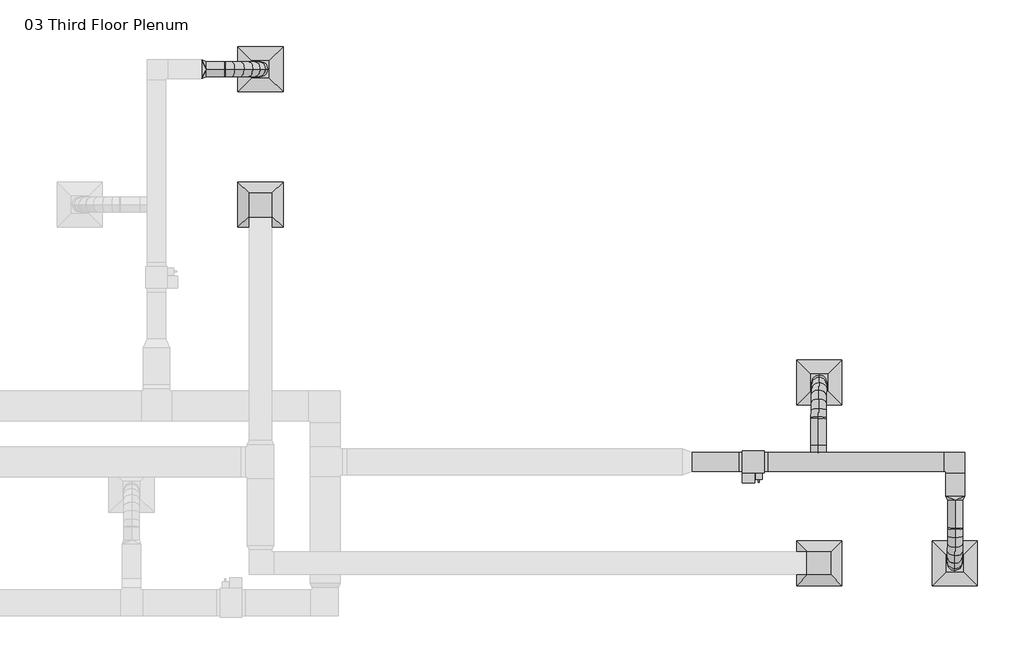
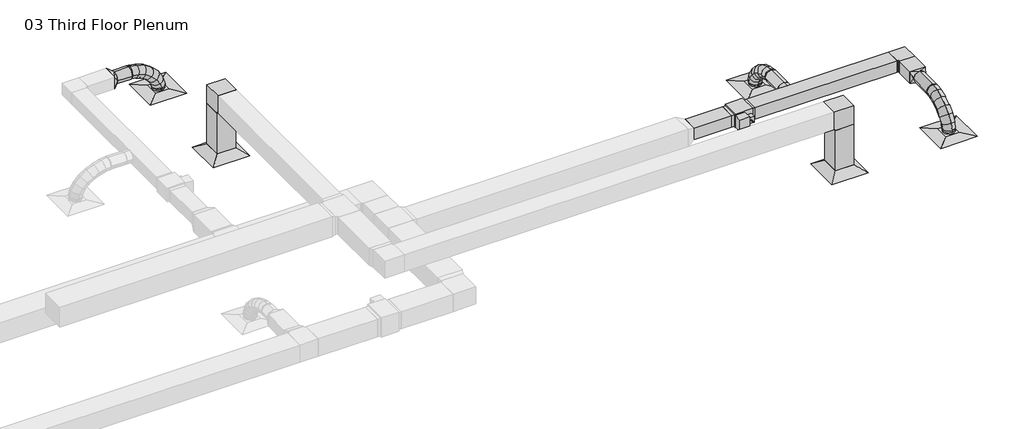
# One storey, part 9 of 9: 11 duct segments, 6 duct fittings, 5 air terminals, 1 proxy.
"""IFC4 building model written with IfcOpenShell, lengths in millimetres."""

from ifc_helpers import new_model, si_unit, point, frame, frame_2d, origin, place, context, project, spatial, polyline, circle_curve, ellipse_curve, trimmed, segment, composite_curve, outline, extrude, transform, mapped, element, save
from ifc_brep_helpers import plane_surface, cylinder_surface, advanced_brep
from components import return_diffuser_d30_returndiffuser_24x24_12x12_connection_ff543d60, supply_diffuser_rectangular_face_round_neck_d30_6390248a, bcn6785_vav_d30_vav1_8c327968, rectangular_elbow_mitered_standard_f09b78ec, rectangular_elbow_mitered_standard_4ff1c4e8, rectangular_to_round_transition_angle_45_degree_e9430680, round_takeoff_standard_d3b0d0f9

model = new_model("IFC4")

# Units and contexts
model_context = context("Model", 3, world=origin())
ifc_project = project(units=[si_unit("LENGTHUNIT", "METRE", prefix="MILLI")], contexts=[model_context])

# Site, building, storey
site = spatial("IfcSite", under=ifc_project)
building = spatial("IfcBuilding", under=site)
storey = spatial("IfcBuildingStorey", under=building, Name="03 Third Floor Plenum", Elevation=7620.0)

# Air terminals
placement = place(None, origin())
return_diffuser_d30_returndiffuser_24x24_12x12_connection_shape = return_diffuser_d30_returndiffuser_24x24_12x12_connection_ff543d60(model_context)
element("IfcAirTerminal", 1, ObjectType="Return Diffuser : D30_ReturnDiffuser_24x24 12x12 Connection", at=placement, inside=storey, context=model_context, shape_type="MappedRepresentation", body=[
    mapped(return_diffuser_d30_returndiffuser_24x24_12x12_connection_shape, transform((10252.2832383, 10036.7671675, 7620.0), x_axis=(1.0, 0.0, 0.0), y_axis=(0.0, 1.0, 0.0), z_axis=(0.0, 0.0, 1.0))),
])
element("IfcAirTerminal", 2, ObjectType="Return Diffuser : D30_ReturnDiffuser_24x24 12x12 Connection", at=placement, inside=storey, context=model_context, shape_type="MappedRepresentation", body=[
    mapped(return_diffuser_d30_returndiffuser_24x24_12x12_connection_shape, transform((17791.3207383, 5194.8921675, 7620.0), x_axis=(0.0, 1.0, 0.0), y_axis=(-1.0, 0.0, 0.0), z_axis=(0.0, 0.0, 1.0))),
])
supply_diffuser_rectangular_face_round_neck_d30_shape = supply_diffuser_rectangular_face_round_neck_d30_6390248a(model_context)
element("IfcAirTerminal", 3, ObjectType="Supply Diffuser - Rectangular Face Round Neck : D30_SupplyDiffuser_24x24 8 Neck", at=placement, inside=storey, context=model_context, shape_type="MappedRepresentation", body=[
    mapped(supply_diffuser_rectangular_face_round_neck_d30_shape, transform((10252.2832383, 11865.5671675, 7620.0), x_axis=(1.0, 0.0, 0.0), y_axis=(0.0, 1.0, 0.0), z_axis=(0.0, 0.0, 1.0))),
])
element("IfcAirTerminal", 4, ObjectType="Supply Diffuser - Rectangular Face Round Neck : D30_SupplyDiffuser_24x24 8 Neck", at=placement, inside=storey, context=model_context, shape_type="MappedRepresentation", body=[
    mapped(supply_diffuser_rectangular_face_round_neck_d30_shape, transform((19620.1207383, 5194.8921675, 7620.0), x_axis=(1.0, 0.0, 0.0), y_axis=(0.0, 1.0, 0.0), z_axis=(0.0, 0.0, 1.0))),
])
element("IfcAirTerminal", 5, ObjectType="Supply Diffuser - Rectangular Face Round Neck : D30_SupplyDiffuser_24x24 8 Neck", at=placement, inside=storey, context=model_context, shape_type="MappedRepresentation", body=[
    mapped(supply_diffuser_rectangular_face_round_neck_d30_shape, transform((17791.3207383, 7633.2921675, 7620.0), x_axis=(1.0, 0.0, 0.0), y_axis=(0.0, 1.0, 0.0), z_axis=(0.0, 0.0, 1.0))),
])

# Proxy
bcn6785_vav_d30_vav1_shape = bcn6785_vav_d30_vav1_8c327968(model_context)
element("IfcBuildingElementProxy", 6, Name="BCN6785_VAV : D30_VAV1", ObjectType="BCN6785_VAV : D30_VAV1", at=placement, inside=storey, context=model_context, shape_type="MappedRepresentation", body=[
    mapped(bcn6785_vav_d30_vav1_shape, transform((16754.2057059, 6562.2580171, 7956.55), x_axis=(1.0, 0.0, 0.0), y_axis=(0.0, 1.0, 0.0), z_axis=(0.0, 0.0, 1.0))),
])

# Duct fittings
rectangular_elbow_mitered_standard_shape = rectangular_elbow_mitered_standard_f09b78ec(model_context)
element("IfcDuctFitting", 7, ObjectType="Rectangular Elbow - Mitered : Standard", at=placement, inside=storey, context=model_context, shape_type="MappedRepresentation", body=[
    mapped(rectangular_elbow_mitered_standard_shape, transform((19624.4057059, 6562.2580171, 8077.2), x_axis=(0.0, 1.0, 0.0), y_axis=(-1.0, 0.0, 0.0), z_axis=(0.0, 0.0, 1.0))),
])
rectangular_elbow_mitered_standard_2_shape = rectangular_elbow_mitered_standard_4ff1c4e8(model_context)
element("IfcDuctFitting", 8, ObjectType="Rectangular Elbow - Mitered : Standard", at=placement, inside=storey, context=model_context, shape_type="MappedRepresentation", body=[
    mapped(rectangular_elbow_mitered_standard_2_shape, transform((10252.2832383, 10036.7671675, 8610.6), x_axis=(0.0, 0.0, 1.0), y_axis=(0.0, -1.0, 0.0), z_axis=(1.0, 0.0, 0.0))),
])
element("IfcDuctFitting", 9, ObjectType="Rectangular Elbow - Mitered : Standard", at=placement, inside=storey, context=model_context, shape_type="MappedRepresentation", body=[
    mapped(rectangular_elbow_mitered_standard_2_shape, transform((17791.3207383, 5194.8921675, 8610.6), x_axis=(0.0, 0.0, 1.0), y_axis=(-1.0, 0.0, 0.0), z_axis=(0.0, -1.0, 0.0))),
])
rectangular_to_round_transition_angle_45_degree_shape = rectangular_to_round_transition_angle_45_degree_e9430680(model_context)
element("IfcDuctFitting", 10, ObjectType="Rectangular to Round Transition - Angle : 45 Degree", at=placement, inside=storey, context=model_context, shape_type="MappedRepresentation", body=[
    mapped(rectangular_to_round_transition_angle_45_degree_shape, transform((9459.889134, 11865.5671675, 8077.2), x_axis=(1.0, 0.0, 0.0), y_axis=(0.0, 1.0, 0.0), z_axis=(0.0, 0.0, 1.0))),
])
element("IfcDuctFitting", 11, ObjectType="Rectangular to Round Transition - Angle : 45 Degree", at=placement, inside=storey, context=model_context, shape_type="MappedRepresentation", body=[
    mapped(rectangular_to_round_transition_angle_45_degree_shape, transform((19624.4057059, 6105.0580171, 8077.2), x_axis=(0.0, -1.0, 0.0), y_axis=(1.0, 0.0, 0.0), z_axis=(0.0, 0.0, 1.0))),
])
round_takeoff_standard_shape = round_takeoff_standard_d3b0d0f9(model_context)
element("IfcDuctFitting", 12, ObjectType="Round Takeoff : Standard", at=placement, inside=storey, context=model_context, shape_type="MappedRepresentation", body=[
    mapped(round_takeoff_standard_shape, transform((17780.479689, 6689.2580171, 8077.2), x_axis=(0.0, 1.0, 0.0), y_axis=(1.0, 0.0, 0.0), z_axis=(0.0, 0.0, -1.0))),
])

# Duct segments
element("IfcDuctSegment", 13, ObjectType="Flex - Round", at=placement, inside=storey, context=model_context, shape_type="AdvancedBrep", body=[
    advanced_brep(
    [(9764.689134, 11967.1671675, 8077.2), (9764.689134, 11865.5671675, 7975.6), (9764.689134, 11763.9671675, 8077.2), (9764.689134, 11865.5671675, 8178.8), (9778.6973765, 11967.1671675, 8077.2), (9770.6377398, 11865.5671675, 7975.6), (9778.6973765, 11763.9671675, 8077.2), (9786.7570132, 11865.5671675, 8178.8), (10252.2832383, 11967.1671675, 7673.975), (10353.8832383, 11865.5671675, 7673.975), (10252.2832383, 11763.9671675, 7673.975), (10150.6832383, 11865.5671675, 7673.975), (9874.039046, 11967.1671675, 8061.9778475), (9847.5716556, 11865.5671675, 7963.3168105), (9874.039046, 11763.9671675, 8061.9778475), (9900.5064365, 11865.5671675, 8160.6388846), (9984.839163, 11967.1671675, 8019.5285565), (9939.1057817, 11865.5671675, 7928.2486277), (9984.839163, 11763.9671675, 8019.5285565), (10030.5725443, 11865.5671675, 8110.8084854), (10087.5765628, 11967.1671675, 7954.6778766), (10024.4632256, 11865.5671675, 7874.3686553), (10087.5765628, 11763.9671675, 7954.6778766), (10150.6899001, 11865.5671675, 8034.987098), (10172.7383234, 11967.1671675, 7872.2515575), (10092.7617587, 11865.5671675, 7808.2639076), (10172.7383234, 11763.9671675, 7872.2515575), (10252.714888, 11865.5671675, 7936.2392074), (10230.8115226, 11967.1671675, 7777.0753487), (10136.2754514, 11865.5671675, 7736.9492848), (10230.8115226, 11763.9671675, 7777.0753487), (10325.3475938, 11865.5671675, 7817.2014127), (10252.2832383, 11967.1671675, 7694.6897958), (10150.6832383, 11865.5671675, 7681.6675594), (10252.2832383, 11763.9671675, 7694.6897958), (10353.8832383, 11865.5671675, 7707.7120321)],
    [
        (0, 1, circle_curve(frame((9764.689134, 11865.5671675, 8077.2), z_axis=(-1.0, 0.0, 0.0), x_axis=(0.0, 1.0, 0.0)), 101.6)),
        (1, 2, circle_curve(frame((9764.689134, 11865.5671675, 8077.2), z_axis=(-1.0, 0.0, 0.0), x_axis=(0.0, 1.0, 0.0)), 101.6)),
        (2, 3, circle_curve(frame((9764.689134, 11865.5671675, 8077.2), z_axis=(-1.0, 0.0, 0.0), x_axis=(0.0, 1.0, 0.0)), 101.6)),
        (3, 0, circle_curve(frame((9764.689134, 11865.5671675, 8077.2), z_axis=(-1.0, 0.0, 0.0), x_axis=(0.0, 1.0, 0.0)), 101.6)),
        (0, 4),
        (4, 5, ellipse_curve(frame((9778.6973765, 11865.5671675, 8077.2), z_axis=(-0.9968683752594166, 0.0, 0.07907871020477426), x_axis=(-0.07907871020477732, 0.0, -0.9968683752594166)), 101.9191726, 101.6)),
        (5, 1),
        (5, 6, ellipse_curve(frame((9778.6973765, 11865.5671675, 8077.2), z_axis=(-0.9968683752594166, 0.0, 0.07907871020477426), x_axis=(-0.07907871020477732, 0.0, -0.9968683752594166)), 101.9191726, 101.6)),
        (6, 2),
        (6, 7, ellipse_curve(frame((9778.6973765, 11865.5671675, 8077.2), z_axis=(-0.9968683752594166, 0.0, 0.07907871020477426), x_axis=(-0.07907871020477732, 0.0, -0.9968683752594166)), 101.9191726, 101.6)),
        (7, 3),
        (7, 4, ellipse_curve(frame((9778.6973765, 11865.5671675, 8077.2), z_axis=(-0.9968683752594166, 0.0, 0.07907871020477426), x_axis=(-0.07907871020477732, 0.0, -0.9968683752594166)), 101.9191726, 101.6)),
        (8, 9, circle_curve(frame((10252.2832383, 11865.5671675, 7673.975), z_axis=(0.0, 0.0, -1.0), x_axis=(0.0, 1.0, 0.0)), 101.6)),
        (9, 10, circle_curve(frame((10252.2832383, 11865.5671675, 7673.975), z_axis=(0.0, 0.0, -1.0), x_axis=(0.0, 1.0, 0.0)), 101.6)),
        (10, 11, circle_curve(frame((10252.2832383, 11865.5671675, 7673.975), z_axis=(0.0, 0.0, -1.0), x_axis=(0.0, 1.0, 0.0)), 101.6)),
        (11, 8, circle_curve(frame((10252.2832383, 11865.5671675, 7673.975), z_axis=(0.0, 0.0, -1.0), x_axis=(0.0, 1.0, 0.0)), 101.6)),
        (4, 12),
        (12, 13, ellipse_curve(frame((9874.039046, 11865.5671675, 8061.9778475), z_axis=(-0.965849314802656, 0.0, 0.2591044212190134), x_axis=(-0.2591044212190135, 0.0, -0.965849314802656)), 102.1495129, 101.6)),
        (13, 5),
        (13, 14, ellipse_curve(frame((9874.039046, 11865.5671675, 8061.9778475), z_axis=(-0.965849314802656, 0.0, 0.2591044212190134), x_axis=(-0.2591044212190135, 0.0, -0.965849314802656)), 102.1495129, 101.6)),
        (14, 6),
        (14, 15, ellipse_curve(frame((9874.039046, 11865.5671675, 8061.9778475), z_axis=(-0.965849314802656, 0.0, 0.2591044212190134), x_axis=(-0.2591044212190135, 0.0, -0.965849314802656)), 102.1495129, 101.6)),
        (15, 7),
        (15, 12, ellipse_curve(frame((9874.039046, 11865.5671675, 8061.9778475), z_axis=(-0.965849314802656, 0.0, 0.2591044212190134), x_axis=(-0.2591044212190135, 0.0, -0.965849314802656)), 102.1495129, 101.6)),
        (12, 16),
        (16, 17, ellipse_curve(frame((9984.839163, 11865.5671675, 8019.5285565), z_axis=(-0.8940608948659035, 0.0, 0.44794543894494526), x_axis=(-0.4479454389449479, 0.0, -0.8940608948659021)), 102.0958744, 101.6)),
        (17, 13),
        (17, 18, ellipse_curve(frame((9984.839163, 11865.5671675, 8019.5285565), z_axis=(-0.8940608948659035, 0.0, 0.44794543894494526), x_axis=(-0.4479454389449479, 0.0, -0.8940608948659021)), 102.0958744, 101.6)),
        (18, 14),
        (18, 19, ellipse_curve(frame((9984.839163, 11865.5671675, 8019.5285565), z_axis=(-0.8940608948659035, 0.0, 0.44794543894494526), x_axis=(-0.4479454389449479, 0.0, -0.8940608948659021)), 102.0958744, 101.6)),
        (19, 15),
        (19, 16, ellipse_curve(frame((9984.839163, 11865.5671675, 8019.5285565), z_axis=(-0.8940608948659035, 0.0, 0.44794543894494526), x_axis=(-0.4479454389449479, 0.0, -0.8940608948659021)), 102.0958744, 101.6)),
        (16, 20),
        (20, 21, ellipse_curve(frame((10087.5765628, 11865.5671675, 7954.6778766), z_axis=(-0.7862553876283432, 0.0, 0.6179016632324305), x_axis=(-0.6179016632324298, 0.0, -0.7862553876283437)), 102.141394, 101.6)),
        (21, 17),
        (21, 22, ellipse_curve(frame((10087.5765628, 11865.5671675, 7954.6778766), z_axis=(-0.7862553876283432, 0.0, 0.6179016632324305), x_axis=(-0.6179016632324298, 0.0, -0.7862553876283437)), 102.141394, 101.6)),
        (22, 18),
        (22, 23, ellipse_curve(frame((10087.5765628, 11865.5671675, 7954.6778766), z_axis=(-0.7862553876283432, 0.0, 0.6179016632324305), x_axis=(-0.6179016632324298, 0.0, -0.7862553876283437)), 102.141394, 101.6)),
        (23, 19),
        (23, 20, ellipse_curve(frame((10087.5765628, 11865.5671675, 7954.6778766), z_axis=(-0.7862553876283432, 0.0, 0.6179016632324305), x_axis=(-0.6179016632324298, 0.0, -0.7862553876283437)), 102.141394, 101.6)),
        (20, 24),
        (24, 25, ellipse_curve(frame((10172.7383234, 11865.5671675, 7872.2515575), z_axis=(-0.6247331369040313, 0.0, 0.7808383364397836), x_axis=(-0.7808383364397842, 0.0, -0.6247331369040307)), 102.4239729, 101.6)),
        (25, 21),
        (25, 26, ellipse_curve(frame((10172.7383234, 11865.5671675, 7872.2515575), z_axis=(-0.6247331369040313, 0.0, 0.7808383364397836), x_axis=(-0.7808383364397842, 0.0, -0.6247331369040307)), 102.4239729, 101.6)),
        (26, 22),
        (26, 27, ellipse_curve(frame((10172.7383234, 11865.5671675, 7872.2515575), z_axis=(-0.6247331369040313, 0.0, 0.7808383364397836), x_axis=(-0.7808383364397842, 0.0, -0.6247331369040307)), 102.4239729, 101.6)),
        (27, 23),
        (27, 24, ellipse_curve(frame((10172.7383234, 11865.5671675, 7872.2515575), z_axis=(-0.6247331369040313, 0.0, 0.7808383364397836), x_axis=(-0.7808383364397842, 0.0, -0.6247331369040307)), 102.4239729, 101.6)),
        (24, 28),
        (28, 29, ellipse_curve(frame((10230.8115226, 11865.5671675, 7777.0753487), z_axis=(-0.39071365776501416, 0.0, 0.9205122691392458), x_axis=(-0.9205122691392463, 0.0, -0.390713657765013)), 102.6994146, 101.6)),
        (29, 25),
        (29, 30, ellipse_curve(frame((10230.8115226, 11865.5671675, 7777.0753487), z_axis=(-0.39071365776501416, 0.0, 0.9205122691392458), x_axis=(-0.9205122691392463, 0.0, -0.390713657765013)), 102.6994146, 101.6)),
        (30, 26),
        (30, 31, ellipse_curve(frame((10230.8115226, 11865.5671675, 7777.0753487), z_axis=(-0.39071365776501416, 0.0, 0.9205122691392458), x_axis=(-0.9205122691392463, 0.0, -0.390713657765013)), 102.6994146, 101.6)),
        (31, 27),
        (31, 28, ellipse_curve(frame((10230.8115226, 11865.5671675, 7777.0753487), z_axis=(-0.39071365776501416, 0.0, 0.9205122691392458), x_axis=(-0.9205122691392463, 0.0, -0.390713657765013)), 102.6994146, 101.6)),
        (28, 32),
        (32, 33, ellipse_curve(frame((10252.2832383, 11865.5671675, 7694.6897958), z_axis=(-0.12713161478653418, 0.0, 0.9918858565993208), x_axis=(-0.9918858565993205, 0.0, -0.12713161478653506)), 102.431141, 101.6)),
        (33, 29),
        (33, 34, ellipse_curve(frame((10252.2832383, 11865.5671675, 7694.6897958), z_axis=(-0.12713161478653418, 0.0, 0.9918858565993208), x_axis=(-0.9918858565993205, 0.0, -0.12713161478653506)), 102.431141, 101.6)),
        (34, 30),
        (34, 35, ellipse_curve(frame((10252.2832383, 11865.5671675, 7694.6897958), z_axis=(-0.12713161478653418, 0.0, 0.9918858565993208), x_axis=(-0.9918858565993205, 0.0, -0.12713161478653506)), 102.431141, 101.6)),
        (35, 31),
        (35, 32, ellipse_curve(frame((10252.2832383, 11865.5671675, 7694.6897958), z_axis=(-0.12713161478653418, 0.0, 0.9918858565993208), x_axis=(-0.9918858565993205, 0.0, -0.12713161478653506)), 102.431141, 101.6)),
        (32, 8),
        (11, 33),
        (10, 34),
        (9, 35),
    ],
    [
        plane_surface(frame((9764.689134, 11865.5671675, 7975.6), z_axis=(-1.0, 0.0, 0.0), x_axis=(0.0, 1.0, 0.0))),
        cylinder_surface(frame((9764.689134, 11865.5671675, 8077.2), z_axis=(-1.0, 0.0, 0.0), x_axis=(0.0, 1.0, 0.0)), 101.6),
        plane_surface(frame((10252.2832383, 11763.9671675, 7673.975), z_axis=(0.0, 0.0, -1.0), x_axis=(-1.0, 0.0, 0.0))),
        cylinder_surface(frame((9778.6973765, 11865.5671675, 8077.2), z_axis=(-0.9874931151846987, 0.0, 0.15766213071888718), x_axis=(0.0, 1.0, 0.0)), 101.6),
        cylinder_surface(frame((9874.039046, 11865.5671675, 8061.9778475), z_axis=(-0.9338139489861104, 0.0, 0.3577590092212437), x_axis=(0.0, 1.0, 0.0)), 101.6),
        cylinder_surface(frame((9984.839163, 11865.5671675, 8019.5285565), z_axis=(-0.8456230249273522, 0.0, 0.5337805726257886), x_axis=(0.0, 1.0, 0.0)), 101.6),
        cylinder_surface(frame((10087.5765628, 11865.5671675, 7954.6778766), z_axis=(-0.7185527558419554, 0.0, 0.6954724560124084), x_axis=(0.0, 1.0, 0.0)), 101.6),
        cylinder_surface(frame((10172.7383234, 11865.5671675, 7872.2515575), z_axis=(-0.5208619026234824, 0.0, 0.853640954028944), x_axis=(0.0, 1.0, 0.0)), 101.6),
        cylinder_surface(frame((10230.8115226, 11865.5671675, 7777.0753487), z_axis=(-0.2522001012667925, 0.0, 0.9676751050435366), x_axis=(0.0, 1.0, 0.0)), 101.6),
        cylinder_surface(frame((10252.2832383, 11865.5671675, 7694.6897958), z_axis=(0.0, 0.0, 1.0), x_axis=(0.0, 1.0, 0.0)), 101.6),
    ],
    [
        (0, [[1, 2, 3, 4]]),
        (1, [[-1, 5, 6, 7]]),
        (1, [[-2, -7, 8, 9]]),
        (1, [[-3, -9, 10, 11]]),
        (1, [[-4, -11, 12, -5]]),
        (2, [[13, 14, 15, 16]]),
        (3, [[-6, 17, 18, 19]]),
        (3, [[-8, -19, 20, 21]]),
        (3, [[-10, -21, 22, 23]]),
        (3, [[-12, -23, 24, -17]]),
        (4, [[-18, 25, 26, 27]]),
        (4, [[-20, -27, 28, 29]]),
        (4, [[-22, -29, 30, 31]]),
        (4, [[-24, -31, 32, -25]]),
        (5, [[-26, 33, 34, 35]]),
        (5, [[-28, -35, 36, 37]]),
        (5, [[-30, -37, 38, 39]]),
        (5, [[-32, -39, 40, -33]]),
        (6, [[-34, 41, 42, 43]]),
        (6, [[-36, -43, 44, 45]]),
        (6, [[-38, -45, 46, 47]]),
        (6, [[-40, -47, 48, -41]]),
        (7, [[-42, 49, 50, 51]]),
        (7, [[-44, -51, 52, 53]]),
        (7, [[-46, -53, 54, 55]]),
        (7, [[-48, -55, 56, -49]]),
        (8, [[-50, 57, 58, 59]]),
        (8, [[-52, -59, 60, 61]]),
        (8, [[-54, -61, 62, 63]]),
        (8, [[-56, -63, 64, -57]]),
        (9, [[-58, 65, -16, 66]]),
        (9, [[-60, -66, -15, 67]]),
        (9, [[-62, -67, -14, 68]]),
        (9, [[-64, -68, -13, -65]]),
    ],
),
])
element("IfcDuctSegment", 14, ObjectType="Flex - Round", at=placement, inside=storey, context=model_context, shape_type="AdvancedBrep", body=[
    advanced_brep(
    [(19726.0057059, 5673.2580171, 8077.2), (19624.4057059, 5673.2580171, 7975.6), (19522.8057059, 5673.2580171, 8077.2), (19624.4057059, 5673.2580171, 8178.8), (19726.0057059, 5658.7376389, 8077.2), (19624.4057059, 5667.2125026, 7975.6), (19522.8057059, 5659.0802398, 8077.2), (19624.4057059, 5650.6053761, 8178.8), (19721.7168325, 5194.0013009, 7673.975), (19619.2298718, 5093.2960733, 7673.975), (19518.5246441, 5195.783034, 7673.975), (19621.0116049, 5296.4882617, 7673.975), (19725.6871135, 5564.8887935, 8061.7566488), (19624.1522513, 5592.5515237, 7963.3141193), (19522.4894884, 5565.930963, 8061.8717667), (19624.0243505, 5538.2682328, 8160.3142962), (19724.8915857, 5455.7502355, 8018.8386293), (19623.5010956, 5503.2193787, 7928.1848413), (19521.6979911, 5457.3453504, 8019.1711894), (19623.0884813, 5409.8762073, 8109.8249774), (19723.8586119, 5354.9334349, 7953.5389615), (19622.6476918, 5419.9283724, 7874.2367393), (19520.6678324, 5356.8033056, 7954.0494826), (19621.8787524, 5291.8083682, 8033.3517047), (19722.826688, 5271.6044091, 7870.920374), (19621.8214191, 5353.2059068, 7808.0831296), (19519.6366237, 5273.5320292, 7871.4881522), (19620.6418926, 5191.9305315, 7934.3253967), (19722.033694, 5214.9172019, 7776.035299), (19621.2256433, 5310.6168546, 7736.7960506), (19518.8425927, 5216.7706952, 7776.479001), (19619.6506434, 5121.0710425, 7815.7182495), (19721.7168325, 5194.0013009, 7694.2843155), (19621.0116049, 5296.4882617, 7681.5736449), (19518.5246441, 5195.783034, 7694.4475387), (19619.2298718, 5093.2960733, 7707.1582092)],
    [
        (0, 1, circle_curve(frame((19624.4057059, 5673.2580171, 8077.2), z_axis=(0.0, 1.0, 0.0), x_axis=(1.0, 0.0, 0.0)), 101.6)),
        (1, 2, circle_curve(frame((19624.4057059, 5673.2580171, 8077.2), z_axis=(0.0, 1.0, 0.0), x_axis=(1.0, 0.0, 0.0)), 101.6)),
        (2, 3, circle_curve(frame((19624.4057059, 5673.2580171, 8077.2), z_axis=(0.0, 1.0, 0.0), x_axis=(1.0, 0.0, 0.0)), 101.6)),
        (3, 0, circle_curve(frame((19624.4057059, 5673.2580171, 8077.2), z_axis=(0.0, 1.0, 0.0), x_axis=(1.0, 0.0, 0.0)), 101.6)),
        (0, 4),
        (4, 5, ellipse_curve(frame((19624.4057059, 5658.9089394, 8077.2), z_axis=(0.0016804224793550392, 0.9966754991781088, 0.08145627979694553), x_axis=(-0.020556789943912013, 0.08147361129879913, -0.9964634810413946)), 101.9388959, 101.6)),
        (5, 1),
        (5, 6, ellipse_curve(frame((19624.4057059, 5658.9089394, 8077.2), z_axis=(0.0016804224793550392, 0.9966754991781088, 0.08145627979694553), x_axis=(-0.020556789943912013, 0.08147361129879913, -0.9964634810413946)), 101.9388959, 101.6)),
        (6, 2),
        (6, 7, ellipse_curve(frame((19624.4057059, 5658.9089394, 8077.2), z_axis=(0.0016804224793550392, 0.9966754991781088, 0.08145627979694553), x_axis=(-0.020556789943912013, 0.08147361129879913, -0.9964634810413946)), 101.9388959, 101.6)),
        (7, 3),
        (7, 4, ellipse_curve(frame((19624.4057059, 5658.9089394, 8077.2), z_axis=(0.0016804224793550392, 0.9966754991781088, 0.08145627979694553), x_axis=(-0.020556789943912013, 0.08147361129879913, -0.9964634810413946)), 101.9388959, 101.6)),
        (8, 9, circle_curve(frame((19620.1207383, 5194.8921675, 7673.975), z_axis=(0.0, 0.0, -1.0), x_axis=(0.9999615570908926, -0.008768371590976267, 0.0)), 101.6)),
        (9, 10, circle_curve(frame((19620.1207383, 5194.8921675, 7673.975), z_axis=(0.0, 0.0, -1.0), x_axis=(0.9999615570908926, -0.008768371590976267, 0.0)), 101.6)),
        (10, 11, circle_curve(frame((19620.1207383, 5194.8921675, 7673.975), z_axis=(0.0, 0.0, -1.0), x_axis=(0.9999615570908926, -0.008768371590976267, 0.0)), 101.6)),
        (11, 8, circle_curve(frame((19620.1207383, 5194.8921675, 7673.975), z_axis=(0.0, 0.0, -1.0), x_axis=(0.9999615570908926, -0.008768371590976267, 0.0)), 101.6)),
        (4, 12),
        (12, 13, ellipse_curve(frame((19624.0883009, 5565.4098782, 8061.8142078), z_axis=(0.005094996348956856, 0.9640564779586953, 0.26564854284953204), x_axis=(-0.01625754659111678, 0.26569673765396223, -0.9639195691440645)), 102.1712973, 101.6)),
        (13, 5),
        (13, 14, ellipse_curve(frame((19624.0883009, 5565.4098782, 8061.8142078), z_axis=(0.005094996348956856, 0.9640564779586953, 0.26564854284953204), x_axis=(-0.01625754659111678, 0.26569673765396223, -0.9639195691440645)), 102.1712973, 101.6)),
        (14, 6),
        (14, 15, ellipse_curve(frame((19624.0883009, 5565.4098782, 8061.8142078), z_axis=(0.005094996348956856, 0.9640564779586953, 0.26564854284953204), x_axis=(-0.01625754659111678, 0.26569673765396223, -0.9639195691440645)), 102.1712973, 101.6)),
        (15, 7),
        (15, 12, ellipse_curve(frame((19624.0883009, 5565.4098782, 8061.8142078), z_axis=(0.005094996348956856, 0.9640564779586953, 0.26564854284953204), x_axis=(-0.01625754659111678, 0.26569673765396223, -0.9639195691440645)), 102.1712973, 101.6)),
        (12, 16),
        (16, 17, ellipse_curve(frame((19623.2947884, 5456.547793, 8019.0049093), z_axis=(0.007730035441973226, 0.8893969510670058, 0.4570703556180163), x_axis=(-0.009091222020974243, 0.45712762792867, -0.8893546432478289)), 102.1106126, 101.6)),
        (17, 13),
        (17, 18, ellipse_curve(frame((19623.2947884, 5456.547793, 8019.0049093), z_axis=(0.007730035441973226, 0.8893969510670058, 0.4570703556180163), x_axis=(-0.009091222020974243, 0.45712762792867, -0.8893546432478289)), 102.1106126, 101.6)),
        (18, 14),
        (18, 19, ellipse_curve(frame((19623.2947884, 5456.547793, 8019.0049093), z_axis=(0.007730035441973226, 0.8893969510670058, 0.4570703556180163), x_axis=(-0.009091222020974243, 0.45712762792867, -0.8893546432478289)), 102.1106126, 101.6)),
        (19, 15),
        (19, 16, ellipse_curve(frame((19623.2947884, 5456.547793, 8019.0049093), z_axis=(0.007730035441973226, 0.8893969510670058, 0.4570703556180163), x_axis=(-0.009091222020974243, 0.45712762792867, -0.8893546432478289)), 102.1106126, 101.6)),
        (16, 20),
        (20, 21, ellipse_curve(frame((19622.2632221, 5355.8683703, 7953.794222), z_axis=(0.008743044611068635, 0.7788372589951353, 0.6271651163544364), x_axis=(-0.0009431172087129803, 0.6271952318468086, -0.7788615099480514)), 102.1431702, 101.6)),
        (21, 17),
        (21, 22, ellipse_curve(frame((19622.2632221, 5355.8683703, 7953.794222), z_axis=(0.008743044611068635, 0.7788372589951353, 0.6271651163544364), x_axis=(-0.0009431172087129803, 0.6271952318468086, -0.7788615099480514)), 102.1431702, 101.6)),
        (22, 18),
        (22, 23, ellipse_curve(frame((19622.2632221, 5355.8683703, 7953.794222), z_axis=(0.008743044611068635, 0.7788372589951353, 0.6271651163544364), x_axis=(-0.0009431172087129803, 0.6271952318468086, -0.7788615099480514)), 102.1431702, 101.6)),
        (23, 19),
        (23, 20, ellipse_curve(frame((19622.2632221, 5355.8683703, 7953.794222), z_axis=(0.008743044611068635, 0.7788372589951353, 0.6271651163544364), x_axis=(-0.0009431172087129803, 0.6271952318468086, -0.7788615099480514)), 102.1431702, 101.6)),
        (20, 24),
        (24, 25, ellipse_curve(frame((19621.2316559, 5272.5682191, 7871.2042631), z_axis=(0.008047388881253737, 0.6163328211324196, 0.7874446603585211), x_axis=(0.006464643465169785, 0.7874216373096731, -0.6163808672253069)), 102.4063576, 101.6)),
        (25, 21),
        (25, 26, ellipse_curve(frame((19621.2316559, 5272.5682191, 7871.2042631), z_axis=(0.008047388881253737, 0.6163328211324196, 0.7874446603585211), x_axis=(0.006464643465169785, 0.7874216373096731, -0.6163808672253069)), 102.4063576, 101.6)),
        (26, 22),
        (26, 27, ellipse_curve(frame((19621.2316559, 5272.5682191, 7871.2042631), z_axis=(0.008047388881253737, 0.6163328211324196, 0.7874446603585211), x_axis=(0.006464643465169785, 0.7874216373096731, -0.6163808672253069)), 102.4063576, 101.6)),
        (27, 23),
        (27, 24, ellipse_curve(frame((19621.2316559, 5272.5682191, 7871.2042631), z_axis=(0.008047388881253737, 0.6163328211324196, 0.7874446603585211), x_axis=(0.006464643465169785, 0.7874216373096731, -0.6163808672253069)), 102.4063576, 101.6)),
        (24, 28),
        (28, 29, ellipse_curve(frame((19620.4381433, 5215.8439486, 7776.25715), z_axis=(0.005521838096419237, 0.38434123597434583, 0.9231745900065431), x_axis=(0.011911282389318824, 0.9230978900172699, -0.38438054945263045)), 102.6630714, 101.6)),
        (29, 25),
        (29, 30, ellipse_curve(frame((19620.4381433, 5215.8439486, 7776.25715), z_axis=(0.005521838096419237, 0.38434123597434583, 0.9231745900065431), x_axis=(0.011911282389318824, 0.9230978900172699, -0.38438054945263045)), 102.6630714, 101.6)),
        (30, 26),
        (30, 31, ellipse_curve(frame((19620.4381433, 5215.8439486, 7776.25715), z_axis=(0.005521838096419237, 0.38434123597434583, 0.9231745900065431), x_axis=(0.011911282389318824, 0.9230978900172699, -0.38438054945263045)), 102.6630714, 101.6)),
        (31, 27),
        (31, 28, ellipse_curve(frame((19620.4381433, 5215.8439486, 7776.25715), z_axis=(0.005521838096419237, 0.38434123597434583, 0.9231745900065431), x_axis=(0.011911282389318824, 0.9230978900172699, -0.38438054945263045)), 102.6630714, 101.6)),
        (28, 32),
        (32, 33, ellipse_curve(frame((19620.1207383, 5194.8921675, 7694.3659271), z_axis=(0.0018923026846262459, 0.12491016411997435, 0.9921662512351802), x_axis=(0.015028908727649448, 0.9920524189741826, -0.12492449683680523)), 102.4021931, 101.6)),
        (33, 29),
        (33, 34, ellipse_curve(frame((19620.1207383, 5194.8921675, 7694.3659271), z_axis=(0.0018923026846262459, 0.12491016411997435, 0.9921662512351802), x_axis=(0.015028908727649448, 0.9920524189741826, -0.12492449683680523)), 102.4021931, 101.6)),
        (34, 30),
        (34, 35, ellipse_curve(frame((19620.1207383, 5194.8921675, 7694.3659271), z_axis=(0.0018923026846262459, 0.12491016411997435, 0.9921662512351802), x_axis=(0.015028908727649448, 0.9920524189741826, -0.12492449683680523)), 102.4021931, 101.6)),
        (35, 31),
        (35, 32, ellipse_curve(frame((19620.1207383, 5194.8921675, 7694.3659271), z_axis=(0.0018923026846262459, 0.12491016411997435, 0.9921662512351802), x_axis=(0.015028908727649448, 0.9920524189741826, -0.12492449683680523)), 102.4021931, 101.6)),
        (32, 8),
        (11, 33),
        (10, 34),
        (9, 35),
    ],
    [
        plane_surface(frame((19522.8057059, 5673.2580171, 8077.2), z_axis=(0.0, 1.0, 0.0), x_axis=(0.0, 0.0, -1.0))),
        cylinder_surface(frame((19624.4057059, 5673.2580171, 8077.2), z_axis=(0.0, 1.0, 0.0), x_axis=(1.0, 0.0, 0.0)), 101.6),
        plane_surface(frame((19620.1207383, 5093.2921675, 7673.975), z_axis=(0.0, 0.0, -1.0), x_axis=(-1.0, 0.0, 0.0))),
        cylinder_surface(frame((19624.4057059, 5658.9089394, 8077.2), z_axis=(0.0033496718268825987, 0.9867241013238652, 0.16237095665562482), x_axis=(0.9999943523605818, -0.0033496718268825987, -0.00027376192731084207)), 101.6),
        cylinder_surface(frame((19624.0883009, 5565.4098782, 8061.8142078), z_axis=(0.006783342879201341, 0.9306076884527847, 0.36595534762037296), x_axis=(0.9999760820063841, -0.006806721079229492, -0.0012263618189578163)), 101.6),
        cylinder_surface(frame((19623.2947884, 5456.547793, 8019.0049093), z_axis=(0.00859941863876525, 0.8392912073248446, 0.54361412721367), x_axis=(0.999958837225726, -0.00879085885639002, -0.0022460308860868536)), 101.6),
        cylinder_surface(frame((19622.2632221, 5355.8683703, 7953.794222), z_axis=(0.008793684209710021, 0.7101000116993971, 0.7040459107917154), x_axis=(0.9999503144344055, -0.00955007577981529, -0.002857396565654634)), 101.6),
        cylinder_surface(frame((19621.2316559, 5272.5682191, 7871.2042631), z_axis=(0.0071743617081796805, 0.5128595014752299, 0.858442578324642), x_axis=(0.9999517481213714, -0.009440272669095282, -0.0027171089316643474)), 101.6),
        cylinder_surface(frame((19620.4381433, 5215.8439486, 7776.25715), z_axis=(0.003754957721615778, 0.24786329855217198, 0.9687877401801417), x_axis=(0.9999585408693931, -0.008967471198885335, -0.001581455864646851)), 101.6),
        cylinder_surface(frame((19620.1207383, 5194.8921675, 7694.3659271), z_axis=(0.0, 0.0, 1.0), x_axis=(0.9999615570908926, -0.008768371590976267, 0.0)), 101.6),
    ],
    [
        (0, [[1, 2, 3, 4]]),
        (1, [[-1, 5, 6, 7]]),
        (1, [[-2, -7, 8, 9]]),
        (1, [[-3, -9, 10, 11]]),
        (1, [[-4, -11, 12, -5]]),
        (2, [[13, 14, 15, 16]]),
        (3, [[-6, 17, 18, 19]]),
        (3, [[-8, -19, 20, 21]]),
        (3, [[-10, -21, 22, 23]]),
        (3, [[-12, -23, 24, -17]]),
        (4, [[-18, 25, 26, 27]]),
        (4, [[-20, -27, 28, 29]]),
        (4, [[-22, -29, 30, 31]]),
        (4, [[-24, -31, 32, -25]]),
        (5, [[-26, 33, 34, 35]]),
        (5, [[-28, -35, 36, 37]]),
        (5, [[-30, -37, 38, 39]]),
        (5, [[-32, -39, 40, -33]]),
        (6, [[-34, 41, 42, 43]]),
        (6, [[-36, -43, 44, 45]]),
        (6, [[-38, -45, 46, 47]]),
        (6, [[-40, -47, 48, -41]]),
        (7, [[-42, 49, 50, 51]]),
        (7, [[-44, -51, 52, 53]]),
        (7, [[-46, -53, 54, 55]]),
        (7, [[-48, -55, 56, -49]]),
        (8, [[-50, 57, 58, 59]]),
        (8, [[-52, -59, 60, 61]]),
        (8, [[-54, -61, 62, 63]]),
        (8, [[-56, -63, 64, -57]]),
        (9, [[-58, 65, -16, 66]]),
        (9, [[-60, -66, -15, 67]]),
        (9, [[-62, -67, -14, 68]]),
        (9, [[-64, -68, -13, -65]]),
    ],
),
])
element("IfcDuctSegment", 15, ObjectType="Flex - Round", at=placement, inside=storey, context=model_context, shape_type="AdvancedBrep", body=[
    advanced_brep(
    [(17678.879689, 7146.4580171, 8077.2), (17780.479689, 7146.4580171, 7975.6), (17882.079689, 7146.4580171, 8077.2), (17780.479689, 7146.4580171, 8178.8), (17678.879689, 7160.9162204, 8077.2), (17780.479689, 7152.4134844, 7975.6), (17882.079689, 7160.0646626, 8077.2), (17780.479689, 7168.5673987, 8178.8), (17689.7452475, 7635.5236844, 7673.975), (17793.5522552, 7734.8676583, 7673.975), (17892.8962291, 7631.0606506, 7673.975), (17789.0892215, 7531.7166767, 7673.975), (17679.6900931, 7256.9933816, 8061.8267639), (17781.1272041, 7229.1794023, 7963.3167418), (17882.8753662, 7254.3958858, 8062.1061301), (17781.4382552, 7282.2098651, 8160.6161523), (17681.7102706, 7368.3298834, 8019.0863294), (17782.7849395, 7320.5409084, 7928.2444124), (17884.8703922, 7364.346232, 8019.8978203), (17783.7957233, 7412.1352071, 8110.7397373), (17684.3289599, 7471.2418404, 7953.9916451), (17784.9527133, 7405.732322, 7874.3584662), (17887.4714674, 7466.5659719, 7955.2409826), (17786.847714, 7532.0754903, 8034.8741615), (17686.9411481, 7556.3208352, 7871.4810878), (17787.0456956, 7473.9007767, 7808.2479392), (17890.0790437, 7551.4947567, 7872.8761006), (17789.9744962, 7633.9148153, 7936.1092492), (17688.9455758, 7614.1867517, 7776.4712893), (17788.550228, 7517.3351916, 7736.9331609), (17892.0898195, 7609.5439365, 7777.565403), (17792.4851673, 7706.3954966, 7817.1035315), (17689.7452475, 7635.5236844, 7694.4715637), (17789.0892215, 7531.7166767, 7681.6638374), (17892.8962291, 7631.0606506, 7694.8747612), (17793.5522552, 7734.8676583, 7707.6824875)],
    [
        (0, 1, circle_curve(frame((17780.479689, 7146.4580171, 8077.2), z_axis=(0.0, -1.0, 0.0), x_axis=(-1.0, 0.0, 0.0)), 101.6)),
        (1, 2, circle_curve(frame((17780.479689, 7146.4580171, 8077.2), z_axis=(0.0, -1.0, 0.0), x_axis=(-1.0, 0.0, 0.0)), 101.6)),
        (2, 3, circle_curve(frame((17780.479689, 7146.4580171, 8077.2), z_axis=(0.0, -1.0, 0.0), x_axis=(-1.0, 0.0, 0.0)), 101.6)),
        (3, 0, circle_curve(frame((17780.479689, 7146.4580171, 8077.2), z_axis=(0.0, -1.0, 0.0), x_axis=(-1.0, 0.0, 0.0)), 101.6)),
        (0, 4),
        (4, 5, ellipse_curve(frame((17780.479689, 7160.4904415, 8077.2), z_axis=(-0.004177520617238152, -0.9968462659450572, 0.07924689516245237), x_axis=(0.05247614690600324, -0.07935692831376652, -0.9954640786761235)), 101.9214331, 101.6)),
        (5, 1),
        (5, 6, ellipse_curve(frame((17780.479689, 7160.4904415, 8077.2), z_axis=(-0.004177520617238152, -0.9968462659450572, 0.07924689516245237), x_axis=(0.05247614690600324, -0.07935692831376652, -0.9954640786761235)), 101.9214331, 101.6)),
        (6, 2),
        (6, 7, ellipse_curve(frame((17780.479689, 7160.4904415, 8077.2), z_axis=(-0.004177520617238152, -0.9968462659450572, 0.07924689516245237), x_axis=(0.05247614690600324, -0.07935692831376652, -0.9954640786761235)), 101.9214331, 101.6)),
        (7, 3),
        (7, 4, ellipse_curve(frame((17780.479689, 7160.4904415, 8077.2), z_axis=(-0.004177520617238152, -0.9968462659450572, 0.07924689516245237), x_axis=(0.05247614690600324, -0.07935692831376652, -0.9954640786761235)), 101.9214331, 101.6)),
        (8, 9, circle_curve(frame((17791.3207383, 7633.2921675, 7673.975), z_axis=(0.0, 0.0, -1.0), x_axis=(-0.9997587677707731, 0.021963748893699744, 0.0)), 101.6)),
        (9, 10, circle_curve(frame((17791.3207383, 7633.2921675, 7673.975), z_axis=(0.0, 0.0, -1.0), x_axis=(-0.9997587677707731, 0.021963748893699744, 0.0)), 101.6)),
        (10, 11, circle_curve(frame((17791.3207383, 7633.2921675, 7673.975), z_axis=(0.0, 0.0, -1.0), x_axis=(-0.9997587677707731, 0.021963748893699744, 0.0)), 101.6)),
        (11, 8, circle_curve(frame((17791.3207383, 7633.2921675, 7673.975), z_axis=(0.0, 0.0, -1.0), x_axis=(-0.9997587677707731, 0.021963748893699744, 0.0)), 101.6)),
        (4, 12),
        (12, 13, ellipse_curve(frame((17781.2827297, 7255.6946337, 8061.966447), z_axis=(-0.01270153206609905, -0.9656416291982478, 0.2595667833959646), x_axis=(0.04145434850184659, -0.25987307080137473, -0.9647525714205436)), 102.1521223, 101.6)),
        (13, 5),
        (13, 14, ellipse_curve(frame((17781.2827297, 7255.6946337, 8061.966447), z_axis=(-0.01270153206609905, -0.9656416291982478, 0.2595667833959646), x_axis=(0.04145434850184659, -0.25987307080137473, -0.9647525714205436)), 102.1521223, 101.6)),
        (14, 6),
        (14, 15, ellipse_curve(frame((17781.2827297, 7255.6946337, 8061.966447), z_axis=(-0.01270153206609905, -0.9656416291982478, 0.2595667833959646), x_axis=(0.04145434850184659, -0.25987307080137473, -0.9647525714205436)), 102.1521223, 101.6)),
        (15, 7),
        (15, 12, ellipse_curve(frame((17781.2827297, 7255.6946337, 8061.966447), z_axis=(-0.01270153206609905, -0.9656416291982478, 0.2595667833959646), x_axis=(0.04145434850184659, -0.25987307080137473, -0.9647525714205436)), 102.1521223, 101.6)),
        (12, 16),
        (16, 17, ellipse_curve(frame((17783.2903314, 7366.3380577, 8019.4920749), z_axis=(-0.019312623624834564, -0.8935375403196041, 0.44857294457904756), x_axis=(0.023144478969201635, -0.4489359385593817, -0.8932641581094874)), 102.0972623, 101.6)),
        (17, 13),
        (17, 18, ellipse_curve(frame((17783.2903314, 7366.3380577, 8019.4920749), z_axis=(-0.019312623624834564, -0.8935375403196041, 0.44857294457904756), x_axis=(0.023144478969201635, -0.4489359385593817, -0.8932641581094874)), 102.0972623, 101.6)),
        (18, 14),
        (18, 19, ellipse_curve(frame((17783.2903314, 7366.3380577, 8019.4920749), z_axis=(-0.019312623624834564, -0.8935375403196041, 0.44857294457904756), x_axis=(0.023144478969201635, -0.4489359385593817, -0.8932641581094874)), 102.0972623, 101.6)),
        (19, 15),
        (19, 16, ellipse_curve(frame((17783.2903314, 7366.3380577, 8019.4920749), z_axis=(-0.019312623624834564, -0.8935375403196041, 0.44857294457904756), x_axis=(0.023144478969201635, -0.4489359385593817, -0.8932641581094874)), 102.0972623, 101.6)),
        (16, 20),
        (20, 21, ellipse_curve(frame((17785.9002137, 7468.9039062, 7954.6163139), z_axis=(-0.021883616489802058, -0.7854723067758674, 0.6185097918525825), x_axis=(0.0026017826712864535, -0.6187005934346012, -0.7856225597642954)), 102.1414933, 101.6)),
        (21, 17),
        (21, 22, ellipse_curve(frame((17785.9002137, 7468.9039062, 7954.6163139), z_axis=(-0.021883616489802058, -0.7854723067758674, 0.6185097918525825), x_axis=(0.0026017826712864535, -0.6187005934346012, -0.7856225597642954)), 102.1414933, 101.6)),
        (22, 18),
        (22, 23, ellipse_curve(frame((17785.9002137, 7468.9039062, 7954.6163139), z_axis=(-0.021883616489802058, -0.7854723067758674, 0.6185097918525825), x_axis=(0.0026017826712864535, -0.6187005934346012, -0.7856225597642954)), 102.1414933, 101.6)),
        (23, 19),
        (23, 20, ellipse_curve(frame((17785.9002137, 7468.9039062, 7954.6163139), z_axis=(-0.021883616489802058, -0.7854723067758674, 0.6185097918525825), x_axis=(0.0026017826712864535, -0.6187005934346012, -0.7856225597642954)), 102.1414933, 101.6)),
        (20, 24),
        (24, 25, ellipse_curve(frame((17788.5100959, 7553.907796, 7872.1785942), z_axis=(-0.020187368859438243, -0.6238958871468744, 0.7812466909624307), x_axis=(-0.015890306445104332, -0.7811070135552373, -0.6241949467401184)), 102.4226376, 101.6)),
        (25, 21),
        (25, 26, ellipse_curve(frame((17788.5100959, 7553.907796, 7872.1785942), z_axis=(-0.020187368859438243, -0.6238958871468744, 0.7812466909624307), x_axis=(-0.015890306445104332, -0.7811070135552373, -0.6241949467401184)), 102.4226376, 101.6)),
        (26, 22),
        (26, 27, ellipse_curve(frame((17788.5100959, 7553.907796, 7872.1785942), z_axis=(-0.020187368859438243, -0.6238958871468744, 0.7812466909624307), x_axis=(-0.015890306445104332, -0.7811070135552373, -0.6241949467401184)), 102.4226376, 101.6)),
        (27, 23),
        (27, 24, ellipse_curve(frame((17788.5100959, 7553.907796, 7872.1785942), z_axis=(-0.020187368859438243, -0.6238958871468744, 0.7812466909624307), x_axis=(-0.015890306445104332, -0.7811070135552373, -0.6241949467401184)), 102.4226376, 101.6)),
        (24, 28),
        (28, 29, ellipse_curve(frame((17790.5176976, 7611.8653441, 7777.0183462), z_axis=(-0.013874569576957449, -0.39011466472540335, 0.9206617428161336), x_axis=(-0.029422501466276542, -0.9201923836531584, -0.3903591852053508)), 102.6969663, 101.6)),
        (29, 25),
        (29, 30, ellipse_curve(frame((17790.5176976, 7611.8653441, 7777.0183462), z_axis=(-0.013874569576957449, -0.39011466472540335, 0.9206617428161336), x_axis=(-0.029422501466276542, -0.9201923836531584, -0.3903591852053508)), 102.6969663, 101.6)),
        (30, 26),
        (30, 31, ellipse_curve(frame((17790.5176976, 7611.8653441, 7777.0183462), z_axis=(-0.013874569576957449, -0.39011466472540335, 0.9206617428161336), x_axis=(-0.029422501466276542, -0.9201923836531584, -0.3903591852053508)), 102.6969663, 101.6)),
        (31, 27),
        (31, 28, ellipse_curve(frame((17790.5176976, 7611.8653441, 7777.0183462), z_axis=(-0.013874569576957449, -0.39011466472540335, 0.9206617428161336), x_axis=(-0.029422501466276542, -0.9201923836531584, -0.3903591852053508)), 102.6969663, 101.6)),
        (28, 32),
        (32, 33, ellipse_curve(frame((17791.3207383, 7633.2921675, 7694.6731625), z_axis=(-0.004757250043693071, -0.12693348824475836, 0.9918998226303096), x_axis=(-0.037148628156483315, -0.9912039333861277, -0.1270226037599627)), 102.4296987, 101.6)),
        (33, 29),
        (33, 34, ellipse_curve(frame((17791.3207383, 7633.2921675, 7694.6731625), z_axis=(-0.004757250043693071, -0.12693348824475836, 0.9918998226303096), x_axis=(-0.037148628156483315, -0.9912039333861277, -0.1270226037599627)), 102.4296987, 101.6)),
        (34, 30),
        (34, 35, ellipse_curve(frame((17791.3207383, 7633.2921675, 7694.6731625), z_axis=(-0.004757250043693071, -0.12693348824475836, 0.9918998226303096), x_axis=(-0.037148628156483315, -0.9912039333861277, -0.1270226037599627)), 102.4296987, 101.6)),
        (35, 31),
        (35, 32, ellipse_curve(frame((17791.3207383, 7633.2921675, 7694.6731625), z_axis=(-0.004757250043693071, -0.12693348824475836, 0.9918998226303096), x_axis=(-0.037148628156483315, -0.9912039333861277, -0.1270226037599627)), 102.4296987, 101.6)),
        (32, 8),
        (11, 33),
        (10, 34),
        (9, 35),
    ],
    [
        plane_surface(frame((17678.879689, 7146.4580171, 8077.2), z_axis=(0.0, -1.0, 0.0), x_axis=(0.0, 0.0, 1.0))),
        cylinder_surface(frame((17780.479689, 7146.4580171, 8077.2), z_axis=(0.0, -1.0, 0.0), x_axis=(-1.0, 0.0, 0.0)), 101.6),
        plane_surface(frame((17791.3207383, 7531.6921675, 7673.975), z_axis=(0.0, 0.0, -1.0), x_axis=(-1.0, 0.0, 0.0))),
        cylinder_surface(frame((17780.479689, 7160.4904415, 8077.2), z_axis=(-0.008328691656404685, -0.9874049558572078, 0.15799394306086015), x_axis=(-0.9999650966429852, 0.008328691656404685, -0.0006621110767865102)), 101.6),
        cylinder_surface(frame((17781.2827297, 7255.6946337, 8061.966447), z_axis=(-0.01693707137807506, -0.9334399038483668, 0.3583337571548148), x_axis=(-0.9998511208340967, 0.016993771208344, -0.0029913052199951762)), 101.6),
        cylinder_surface(frame((17783.2903314, 7366.3380577, 8019.4920749), z_axis=(-0.02150005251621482, -0.8449312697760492, 0.534442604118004), x_axis=(-0.9997436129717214, 0.021967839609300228, -0.005488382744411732)), 101.6),
        cylinder_surface(frame((17785.9002137, 7468.9039062, 7954.6163139), z_axis=(-0.022035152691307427, -0.7176851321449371, 0.6960190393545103), x_axis=(-0.9996898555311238, 0.023897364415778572, -0.007007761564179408)), 101.6),
        cylinder_surface(frame((17788.5100959, 7553.907796, 7872.1785942), z_axis=(-0.01801530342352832, -0.5200846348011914, 0.8539247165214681), x_axis=(-0.9996980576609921, 0.023643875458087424, -0.006690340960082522)), 101.6),
        cylinder_surface(frame((17790.5176976, 7611.8653441, 7777.0183462), z_axis=(-0.009437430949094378, -0.25181060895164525, 0.9677305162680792), x_axis=(-0.9997400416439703, 0.022463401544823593, -0.0039044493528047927)), 101.6),
        cylinder_surface(frame((17791.3207383, 7633.2921675, 7694.6731625), z_axis=(0.0, 0.0, 1.0000000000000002), x_axis=(-0.9997587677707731, 0.021963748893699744, 0.0)), 101.6),
    ],
    [
        (0, [[1, 2, 3, 4]]),
        (1, [[-1, 5, 6, 7]]),
        (1, [[-2, -7, 8, 9]]),
        (1, [[-3, -9, 10, 11]]),
        (1, [[-4, -11, 12, -5]]),
        (2, [[13, 14, 15, 16]]),
        (3, [[-6, 17, 18, 19]]),
        (3, [[-8, -19, 20, 21]]),
        (3, [[-10, -21, 22, 23]]),
        (3, [[-12, -23, 24, -17]]),
        (4, [[-18, 25, 26, 27]]),
        (4, [[-20, -27, 28, 29]]),
        (4, [[-22, -29, 30, 31]]),
        (4, [[-24, -31, 32, -25]]),
        (5, [[-26, 33, 34, 35]]),
        (5, [[-28, -35, 36, 37]]),
        (5, [[-30, -37, 38, 39]]),
        (5, [[-32, -39, 40, -33]]),
        (6, [[-34, 41, 42, 43]]),
        (6, [[-36, -43, 44, 45]]),
        (6, [[-38, -45, 46, 47]]),
        (6, [[-40, -47, 48, -41]]),
        (7, [[-42, 49, 50, 51]]),
        (7, [[-44, -51, 52, 53]]),
        (7, [[-46, -53, 54, 55]]),
        (7, [[-48, -55, 56, -49]]),
        (8, [[-50, 57, 58, 59]]),
        (8, [[-52, -59, 60, 61]]),
        (8, [[-54, -61, 62, 63]]),
        (8, [[-56, -63, 64, -57]]),
        (9, [[-58, 65, -16, 66]]),
        (9, [[-60, -66, -15, 67]]),
        (9, [[-62, -67, -14, 68]]),
        (9, [[-64, -68, -13, -65]]),
    ],
),
])
element("IfcDuctSegment", 16, ObjectType="Mitered Elbows / Taps", at=placement, inside=storey, context=model_context, shape_type="SweptSolid", body=[
    extrude(outline(polyline([(17943.7207383, 5347.2921675), (17943.7207383, 5042.4921675), (17638.9207383, 5042.4921675), (17638.9207383, 5347.2921675), (17943.7207383, 5347.2921675)])), frame((0.0, 0.0, 7721.6), z_axis=(0.0, 0.0, 1.0), x_axis=(1.0, 0.0, 0.0)), (0.0, 0.0, 1.0), 711.2),
])
element("IfcDuctSegment", 17, ObjectType="Mitered Elbows / Tees", at=placement, inside=storey, context=model_context, shape_type="SweptSolid", body=[
    extrude(outline(polyline([(16074.9238148, 6435.2580171), (16074.9238148, 6689.2580171), (16703.4057059, 6689.2580171), (16703.4057059, 6435.2580171), (16074.9238148, 6435.2580171)])), frame((0.0, 0.0, 7975.6), z_axis=(0.0, 0.0, 1.0), x_axis=(1.0, 0.0, 0.0)), (0.0, 0.0, 1.0), 203.2),
])
element("IfcDuctSegment", 18, ObjectType="Mitered Elbows / Tees", at=placement, inside=storey, context=model_context, shape_type="SweptSolid", body=[
    extrude(outline(polyline([(17097.1057059, 6435.2580171), (17097.1057059, 6689.2580171), (19472.0057059, 6689.2580171), (19472.0057059, 6435.2580171), (17097.1057059, 6435.2580171)])), frame((0.0, 0.0, 7975.6), z_axis=(0.0, 0.0, 1.0), x_axis=(1.0, 0.0, 0.0)), (0.0, 0.0, 1.0), 203.2),
])
element("IfcDuctSegment", 19, ObjectType="Mitered Elbows / Tees", at=placement, inside=storey, context=model_context, shape_type="SweptSolid", body=[
    extrude(outline(polyline([(19497.4057059, 6409.8580171), (19751.4057059, 6409.8580171), (19751.4057059, 6105.0580171), (19497.4057059, 6105.0580171), (19497.4057059, 6409.8580171)])), frame((0.0, 0.0, 7975.6), z_axis=(0.0, 0.0, 1.0), x_axis=(1.0, 0.0, 0.0)), (0.0, 0.0, 1.0), 203.2),
])
element("IfcDuctSegment", 20, ObjectType="Mitered Elbows / Tees", at=placement, inside=storey, context=model_context, shape_type="SweptSolid", body=[
    extrude(outline(polyline([(10099.8832383, 10189.1671675), (10404.6832383, 10189.1671675), (10404.6832383, 9884.3671675), (10099.8832383, 9884.3671675), (10099.8832383, 10189.1671675)])), frame((0.0, 0.0, 7721.6), z_axis=(0.0, 0.0, 1.0), x_axis=(1.0, 0.0, 0.0)), (0.0, 0.0, 1.0), 711.2),
])
element("IfcDuctSegment", 21, ObjectType="Taps", at=placement, inside=storey, context=model_context, shape_type="SweptSolid", body=[
    extrude(outline(composite_curve([segment(trimmed(circle_curve(frame_2d((11865.5671675, 8077.2)), 101.6), [point((11763.9671675, 8077.2))], [point((11865.5671675, 8178.8))], False, "CARTESIAN"), True, "CONTINUOUS"), segment(trimmed(circle_curve(frame_2d((11865.5671675, 8077.2)), 101.6), [point((11865.5671675, 8178.8))], [point((11967.1671675, 8077.2))], False, "CARTESIAN"), True, "CONTINUOUS"), segment(trimmed(circle_curve(frame_2d((11865.5671675, 8077.2)), 101.6), [point((11967.1671675, 8077.2))], [point((11865.5671675, 7975.6))], False, "CARTESIAN"), True, "CONTINUOUS"), segment(trimmed(circle_curve(frame_2d((11865.5671675, 8077.2)), 101.6), [point((11865.5671675, 7975.6))], [point((11763.9671675, 8077.2))], False, "CARTESIAN"), True, "CONTINUOUS")], self_intersect=False)), frame((9521.2101585, 0.0, 0.0), z_axis=(1.0, 0.0, 0.0), x_axis=(0.0, 1.0, 0.0)), (0.0, 0.0, 1.0), 243.4789755),
])
element("IfcDuctSegment", 22, ObjectType="Taps", at=placement, inside=storey, context=model_context, shape_type="SweptSolid", body=[
    extrude(outline(composite_curve([segment(trimmed(circle_curve(frame_2d((8077.2, 19624.4057059)), 101.6), [point((8077.2, 19522.8057059))], [point((7975.6, 19624.4057059))], False, "CARTESIAN"), True, "CONTINUOUS"), segment(trimmed(circle_curve(frame_2d((8077.2, 19624.4057059)), 101.6), [point((7975.6, 19624.4057059))], [point((8077.2, 19726.0057059))], False, "CARTESIAN"), True, "CONTINUOUS"), segment(trimmed(circle_curve(frame_2d((8077.2, 19624.4057059)), 101.6), [point((8077.2, 19726.0057059))], [point((8178.8, 19624.4057059))], False, "CARTESIAN"), True, "CONTINUOUS"), segment(trimmed(circle_curve(frame_2d((8077.2, 19624.4057059)), 101.6), [point((8178.8, 19624.4057059))], [point((8077.2, 19522.8057059))], False, "CARTESIAN"), True, "CONTINUOUS")], self_intersect=False)), frame((0.0, 5673.2580171, 0.0), z_axis=(0.0, 1.0, 0.0), x_axis=(0.0, 0.0, 1.0)), (0.0, 0.0, 1.0), 370.4789755),
])
element("IfcDuctSegment", 23, ObjectType="Taps", at=placement, inside=storey, context=model_context, shape_type="SweptSolid", body=[
    extrude(outline(composite_curve([segment(trimmed(circle_curve(frame_2d((8077.2, 17780.479689)), 101.6), [point((8077.2, 17882.079689))], [point((8178.8, 17780.479689))], False, "CARTESIAN"), True, "CONTINUOUS"), segment(trimmed(circle_curve(frame_2d((8077.2, 17780.479689)), 101.6), [point((8178.8, 17780.479689))], [point((8077.2, 17678.879689))], False, "CARTESIAN"), True, "CONTINUOUS"), segment(trimmed(circle_curve(frame_2d((8077.2, 17780.479689)), 101.6), [point((8077.2, 17678.879689))], [point((7975.6, 17780.479689))], False, "CARTESIAN"), True, "CONTINUOUS"), segment(trimmed(circle_curve(frame_2d((8077.2, 17780.479689)), 101.6), [point((7975.6, 17780.479689))], [point((8077.2, 17882.079689))], False, "CARTESIAN"), True, "CONTINUOUS")], self_intersect=False)), frame((0.0, 6790.8580171, 0.0), z_axis=(0.0, 1.0, 0.0), x_axis=(0.0, 0.0, 1.0)), (0.0, 0.0, 1.0), 355.6),
])

save(model, "model.ifc")
